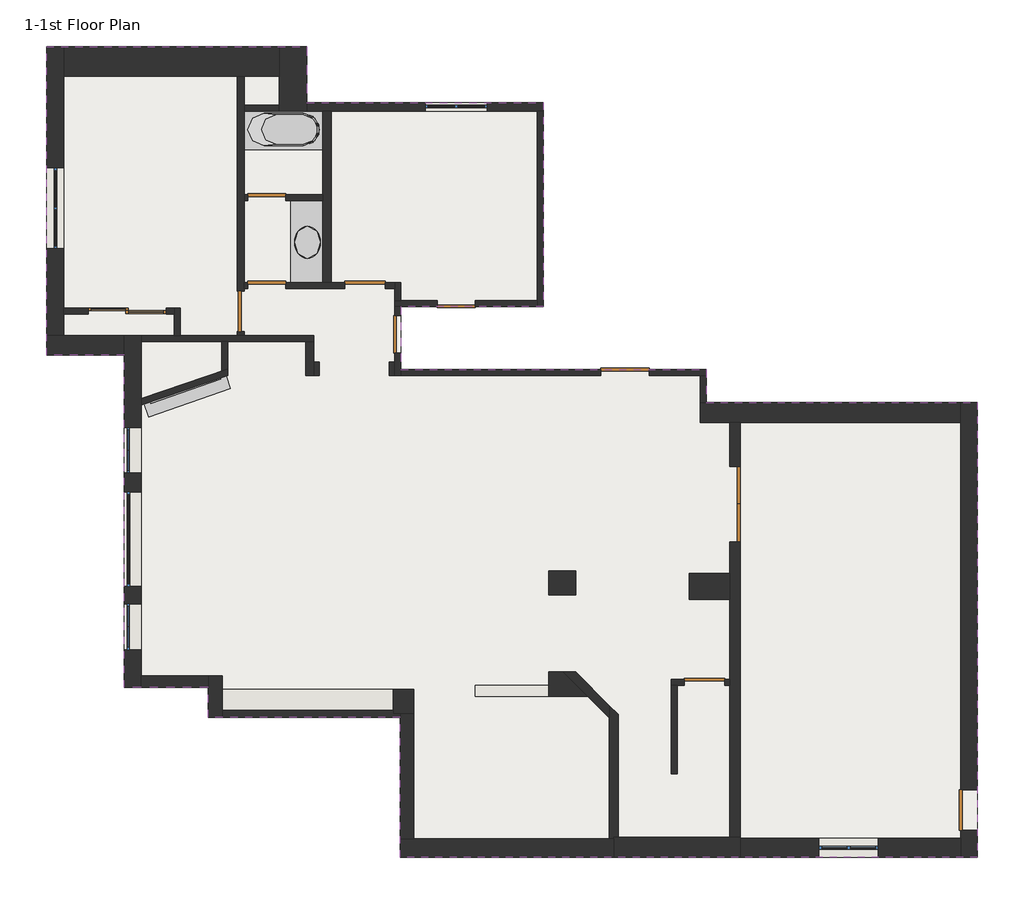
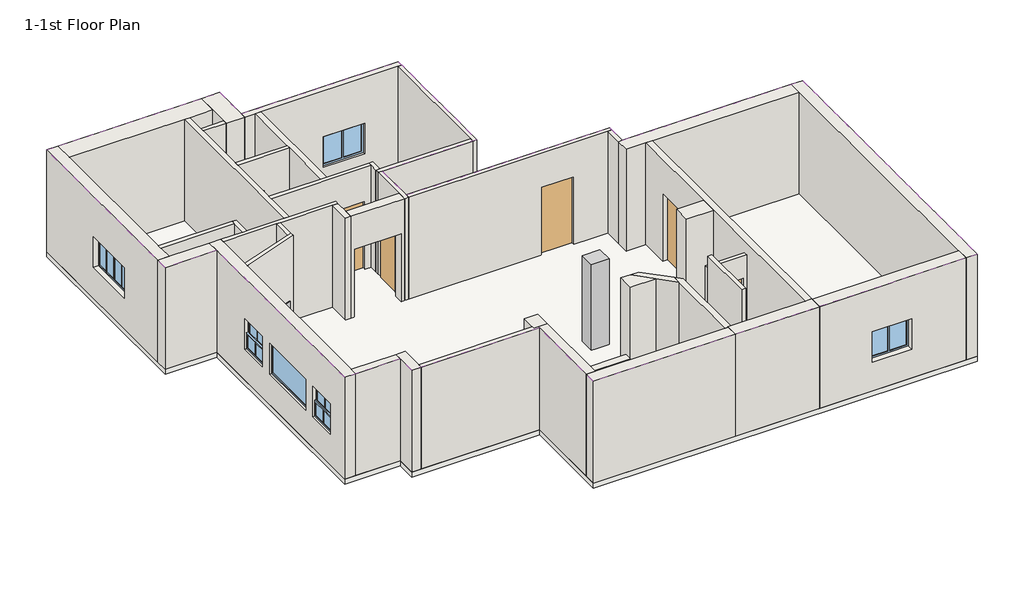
# One storey, incomplete: 43 walls, 11 doors, 6 windows, 1 column, 1 covering, 1 flow terminal, 1 furniture element, 1 proxy, 1 slab.
"""IFC4 building model written with IfcOpenShell, lengths in millimetres."""

from ifc_helpers import new_model, si_unit, frame, origin, origin_with_axes, place, context, project, spatial, polyline, outline, extrude, faceted_brep, transform, mapped, element, save
from components import generic_models_5_generic_models_5_6d1e31e7, columns_1_columns_1_5ad2784a, door_64bc458f, door_8a6e924b, door_ae451de5, door_2ad2c74c, door_949120a3, door_eaf6c470, door_1eac47e7, door_902f0b21, door_1fb80474, plumbing_fixtures_8_plumbing_fixtures_8_13d122d2, casework_10_casework_10_244081dc, window_c256d3ea, window_8184cf6b, window_6ee6a00c, window_1a2cd0af, window_898dd9ae, window_491ab510

model = new_model("IFC4")

# Units and contexts
model_context = context("Model", 3, world=origin())
ifc_project = project(units=[si_unit("LENGTHUNIT", "METRE", prefix="MILLI")], contexts=[model_context])

# Site, building, storey
site = spatial("IfcSite", under=ifc_project)
building = spatial("IfcBuilding", under=site)
storey = spatial("IfcBuildingStorey", under=building, Name="1-1st Floor Plan", Elevation=0.0)

# Proxy
placement = place(None, origin())
generic_models_5_generic_models_5_shape = generic_models_5_generic_models_5_6d1e31e7(model_context)
element("IfcBuildingElementProxy", 1, Name="Generic Models 5 : Generic Models 5", ObjectType="Generic Models 5 : Generic Models 5", at=placement, inside=storey, context=model_context, shape_type="MappedRepresentation", body=[
    mapped(generic_models_5_generic_models_5_shape, transform((0.0, 0.0, 0.0), x_axis=(1.0, 0.0, 0.0), y_axis=(0.0, 1.0, 0.0), z_axis=(0.0, 0.0, 1.0))),
])

# Column
columns_1_columns_1_shape = columns_1_columns_1_5ad2784a(model_context)
element("IfcColumn", 2, ObjectType="Columns 1 : Columns 1", at=placement, inside=storey, context=model_context, shape_type="MappedRepresentation", body=[
    mapped(columns_1_columns_1_shape, transform((0.0, 0.0, 0.0), x_axis=(1.0, 0.0, 0.0), y_axis=(0.0, 1.0, 0.0), z_axis=(0.0, 0.0, 1.0))),
])

# Covering
element("IfcCovering", 3, ObjectType="Ceiling_5.9\"", at=placement, inside=storey, context=model_context, shape_type="SweptSolid", body=[
    extrude(outline(polyline([(-6661.15, 9461.5), (-6661.15, 15278.1), (-1758.95, 15278.1), (-1758.95, 14224.0), (2692.4, 14224.0), (2692.4, 10375.9), (12.7, 10375.9), (12.7, 9194.8), (5765.8, 9194.8), (5765.8, 8572.5), (10871.2, 8572.5), (10871.2, 0.0), (0.0176056, 0.0), (0.0176056, 2641.6), (-3619.5, 2641.6), (-3619.5, 3200.4), (-5194.3, 3200.4), (-5194.3, 9461.5), (-6661.15, 9461.5)])), frame((0.0, 0.0, 3048.0), z_axis=(0.0, 0.0, 1.0), x_axis=(1.0, 0.0, 0.0)), (0.0, 0.0, 1.0), 150.0),
])

# Doors
door_shape = door_64bc458f(model_context)
element("IfcDoor", 4, ObjectType="Door_1 : 2'-4\" X 6'-8\"", at=placement, inside=storey, context=model_context, shape_type="MappedRepresentation", body=[
    mapped(door_shape, transform((-44.45, 9855.2, 0.0), x_axis=(0.0, -1.0, 0.0), y_axis=(1.0, 0.0, 0.0), z_axis=(0.0, 0.0, 1.0))),
])
element("IfcDoor", 5, ObjectType="Door_1 : 2'-4\" X 6'-8\"", at=placement, inside=storey, context=model_context, shape_type="MappedRepresentation", body=[
    mapped(door_shape, transform((-2514.6, 10775.95, 0.0), x_axis=(-1.0, 0.0, 0.0), y_axis=(0.0, -1.0, 0.0), z_axis=(0.0, 0.0, 1.0))),
])
element("IfcDoor", 6, ObjectType="Door_1 : 2'-4\" X 6'-8\"", at=placement, inside=storey, context=model_context, shape_type="MappedRepresentation", body=[
    mapped(door_shape, transform((-2514.6, 12426.95, 0.0), x_axis=(-1.0, 0.0, 0.0), y_axis=(0.0, -1.0, 0.0), z_axis=(0.0, 0.0, 1.0))),
])
door_2_shape = door_8a6e924b(model_context)
element("IfcDoor", 7, ObjectType="Door_1 : 2'-4\" X 6'-8\"", at=placement, inside=storey, context=model_context, shape_type="MappedRepresentation", body=[
    mapped(door_2_shape, transform((1054.1, 10433.05, 0.0), x_axis=(-1.0, 0.0, 0.0), y_axis=(0.0, -1.0, 0.0), z_axis=(0.0, 0.0, 1.0))),
])
door_3_shape = door_ae451de5(model_context)
element("IfcDoor", 8, ObjectType="Door_1 : 2'-6\" X 6'-8\"", at=placement, inside=storey, context=model_context, shape_type="MappedRepresentation", body=[
    mapped(door_3_shape, transform((5727.7, 3295.65, 0.0), x_axis=(1.0, 0.0, 0.0), y_axis=(0.0, 1.0, 0.0), z_axis=(0.0, 0.0, 1.0))),
])
door_4_shape = door_2ad2c74c(model_context)
element("IfcDoor", 9, ObjectType="Door_1 : 2'-6\" X 6'-8\"", at=placement, inside=storey, context=model_context, shape_type="MappedRepresentation", body=[
    mapped(door_4_shape, transform((-660.4, 10775.95, 0.0), x_axis=(-1.0, 0.0, 0.0), y_axis=(0.0, -1.0, 0.0), z_axis=(0.0, 0.0, 1.0))),
])
door_5_shape = door_949120a3(model_context)
element("IfcDoor", 10, ObjectType="Door_1 : 2'-6\" X 6'-8\"", at=placement, inside=storey, context=model_context, shape_type="MappedRepresentation", body=[
    mapped(door_5_shape, transform((10712.45, 889.0, 0.0), x_axis=(0.0, -1.0, 0.0), y_axis=(1.0, 0.0, 0.0), z_axis=(0.0, 0.0, 1.0))),
])
door_6_shape = door_eaf6c470(model_context)
element("IfcDoor", 11, ObjectType="Door_1 : 3'-0\" X 6'-8\"", at=placement, inside=storey, context=model_context, shape_type="MappedRepresentation", body=[
    mapped(door_6_shape, transform((4229.1, 9137.65, 0.0), x_axis=(1.0, 0.0, 0.0), y_axis=(0.0, 1.0, 0.0), z_axis=(0.0, 0.0, 1.0))),
])
door_7_shape = door_1eac47e7(model_context)
element("IfcDoor", 12, ObjectType="Door_2 : 4'-8\" X 6'-8\"", at=placement, inside=storey, context=model_context, shape_type="MappedRepresentation", body=[
    mapped(door_7_shape, transform((6305.55, 6654.8, 0.0), x_axis=(0.0, -1.0, 0.0), y_axis=(1.0, 0.0, 0.0), z_axis=(0.0, 0.0, 1.0))),
])
door_8_shape = door_902f0b21(model_context)
element("IfcDoor", 13, ObjectType="Door_3 : 4'-10\" X 6'-8\"", at=placement, inside=storey, context=model_context, shape_type="MappedRepresentation", body=[
    mapped(door_8_shape, transform((-5143.5, 10166.35, 0.0), x_axis=(1.0, 0.0, 0.0), y_axis=(0.0, 1.0, 0.0), z_axis=(0.0, 0.0, 1.0))),
])
door_9_shape = door_1fb80474(model_context)
element("IfcDoor", 14, ObjectType="Door_4 : 2'-6\" X 6'-8\"", at=placement, inside=storey, context=model_context, shape_type="MappedRepresentation", body=[
    mapped(door_9_shape, transform((-3006.725, 10287.0, 0.0), x_axis=(0.0, -1.0, 0.0), y_axis=(1.0, 0.0, 0.0), z_axis=(0.0, 0.0, 1.0))),
])

# Flow terminal
plumbing_fixtures_8_plumbing_fixtures_8_shape = plumbing_fixtures_8_plumbing_fixtures_8_13d122d2(model_context)
element("IfcFlowTerminal", 15, ObjectType="Plumbing Fixtures 8 : Plumbing Fixtures 8", at=placement, inside=storey, context=model_context, shape_type="MappedRepresentation", body=[
    mapped(plumbing_fixtures_8_plumbing_fixtures_8_shape, transform((0.0, 0.0, 0.0), x_axis=(1.0, 0.0, 0.0), y_axis=(0.0, 1.0, 0.0), z_axis=(0.0, 0.0, 1.0))),
])

# Furniture
casework_10_casework_10_shape = casework_10_casework_10_244081dc(model_context)
element("IfcFurniture", 16, ObjectType="Casework 10 : Casework 10", at=placement, inside=storey, context=model_context, shape_type="MappedRepresentation", body=[
    mapped(casework_10_casework_10_shape, transform((0.0, 0.0, 0.0), x_axis=(1.0, 0.0, 0.0), y_axis=(0.0, 1.0, 0.0), z_axis=(0.0, 0.0, 1.0))),
])

# Slab
element("IfcSlab", 17, ObjectType="Floor:Floor_5.9\"", at=placement, inside=storey, context=model_context, shape_type="SweptSolid", body=[
    extrude(outline(polyline([(-6661.15, 9461.5), (-6661.15, 15278.1), (-1758.95, 15278.1), (-1758.95, 14224.0), (2692.4, 14224.0), (2692.4, 10375.9), (12.7, 10375.9), (12.7, 9194.8), (5765.8, 9194.8), (5765.8, 8572.5), (10871.2, 8572.5), (10871.2, 0.0), (0.0176056, 0.0), (0.0176056, 2641.6), (-3619.5, 2641.6), (-3619.5, 3200.4), (-5194.3, 3200.4), (-5194.3, 9461.5), (-6661.15, 9461.5)])), frame((0.0, 0.0, -150.0), z_axis=(0.0, 0.0, 1.0), x_axis=(1.0, 0.0, 0.0)), (0.0, 0.0, 1.0), 150.0),
])

# Walls
element("IfcWall", 18, ObjectType="Wall_1' 1 3/4\"", at=placement, inside=storey, context=model_context, shape_type="Brep", body=[
    faceted_brep([(4019.5496704, 349.25, 0.0), (3936.9996704, 349.25, 0.0), (254.0176056, 349.25, 0.0), (0.0176056, 349.25, 0.0), (0.0176056, 349.25, 3048.0), (254.0176056, 349.25, 3048.0), (3936.9996704, 349.25, 3048.0), (4019.5496704, 349.25, 3048.0), (4019.5496704, 0.0, 0.0), (4019.5496704, 0.0, 3048.0), (0.0176056, 0.0, 3048.0), (0.0176056, 0.0, 0.0)], [[[0, 1, 2, 3, 4, 5, 6, 7]], [[8, 9, 10, 11]], [[3, 2, 1, 0, 8, 11]], [[7, 6, 5, 4, 10, 9]], [[0, 7, 9, 8]], [[4, 3, 11, 10]]]),
])
element("IfcWall", 19, ObjectType="Wall_1' 10\"", at=placement, inside=storey, context=model_context, shape_type="Brep", body=[
    faceted_brep([(-2279.65, 15278.1, 0.0), (-6337.3, 15278.1, 0.0), (-6337.3, 15278.1, 3048.0), (-2279.65, 15278.1, 3048.0), (-2279.65, 14719.3, 0.0), (-2279.65, 14719.3, 3048.0), (-2933.7, 14719.3, 3048.0), (-3073.4, 14719.3, 3048.0), (-6337.3, 14719.3, 3048.0), (-6337.3, 14719.3, 0.0), (-3073.4, 14719.3, 0.0), (-2933.7, 14719.3, 0.0)], [[[0, 1, 2, 3]], [[4, 5, 6, 7, 8, 9, 10, 11]], [[1, 0, 4, 11, 10, 9]], [[3, 2, 8, 7, 6, 5]], [[2, 1, 9, 8]], [[0, 3, 5, 4]]]),
])
element("IfcWall", 20, ObjectType="Wall_1' 2 1/2\"", at=placement, inside=storey, context=model_context, shape_type="Brep", body=[
    faceted_brep([(-5194.3, 9829.8, 0.0), (-6337.3, 9829.8, 0.0), (-6661.15, 9829.8, 0.0), (-6661.15, 9829.8, 3048.0), (-6337.3, 9829.8, 3048.0), (-5194.3, 9829.8, 3048.0), (-5194.3, 9461.5, 0.0), (-5194.3, 9461.5, 3048.0), (-6661.15, 9461.5, 3048.0), (-6661.15, 9461.5, 0.0)], [[[0, 1, 2, 3, 4, 5]], [[6, 7, 8, 9]], [[2, 1, 0, 6, 9]], [[5, 4, 3, 8, 7]], [[0, 5, 7, 6]], [[3, 2, 9, 8]]]),
])
element("IfcWall", 21, ObjectType="Wall_1' 3 1/2\"", at=placement, inside=storey, context=model_context, shape_type="SweptSolid", body=[
    extrude(outline(polyline([(-3352.8, 3162.3), (-127.0, 3162.3), (-127.0, 2768.6), (-3352.8, 2768.6), (-3352.8, 3162.3)])), origin_with_axes(), (0.0, 0.0, 1.0), 304.8),
])
element("IfcWall", 22, ObjectType="Wall_1' 3/4\"", at=placement, inside=storey, context=model_context, shape_type="Brep", body=[
    faceted_brep([(-6337.3, 9829.8, 0.0), (-6337.3, 10236.2, 0.0), (-6337.3, 10350.5, 0.0), (-6337.3, 14719.3, 0.0), (-6337.3, 15278.1, 0.0), (-6337.3, 15278.1, 3048.0), (-6337.3, 14719.3, 3048.0), (-6337.3, 10350.5, 3048.0), (-6337.3, 10236.2, 3048.0), (-6337.3, 9829.8, 3048.0), (-6337.3, 11468.1, 1828.8), (-6337.3, 12992.1, 1828.8), (-6337.3, 12992.1, 914.4), (-6337.3, 11468.1, 914.4), (-6661.15, 9829.8, 0.0), (-6661.15, 9829.8, 3048.0), (-6661.15, 15278.1, 3048.0), (-6661.15, 15278.1, 0.0), (-6661.15, 11468.1, 1828.8), (-6661.15, 11468.1, 914.4), (-6661.15, 12992.1, 914.4), (-6661.15, 12992.1, 1828.8)], [[[0, 1, 2, 3, 4, 5, 6, 7, 8, 9], [10, 11, 12, 13]], [[14, 15, 16, 17], [18, 19, 20, 21]], [[4, 3, 2, 1, 0, 14, 17]], [[9, 8, 7, 6, 5, 16, 15]], [[0, 9, 15, 14]], [[5, 4, 17, 16]], [[19, 18, 10, 13]], [[20, 19, 13, 12]], [[21, 20, 12, 11]], [[18, 21, 11, 10]]]),
])
element("IfcWall", 23, ObjectType="Wall_1' 8 1/2\"", at=placement, inside=storey, context=model_context, shape_type="Brep", body=[
    faceted_brep([(-2279.65, 15278.1, 0.0), (-2279.65, 14719.3, 0.0), (-2279.65, 14173.2, 0.0), (-2279.65, 14058.9, 0.0), (-2279.65, 14058.9, 3048.0), (-2279.65, 14173.2, 3048.0), (-2279.65, 14719.3, 3048.0), (-2279.65, 15278.1, 3048.0), (-1758.95, 15278.1, 0.0), (-1758.95, 15278.1, 3048.0), (-1758.95, 14224.0, 3048.0), (-1758.95, 14058.9, 3048.0), (-1758.95, 14058.9, 0.0), (-1758.95, 14224.0, 0.0)], [[[0, 1, 2, 3, 4, 5, 6, 7]], [[8, 9, 10, 11, 12, 13]], [[3, 2, 1, 0, 8, 13, 12]], [[7, 6, 5, 4, 11, 10, 9]], [[0, 7, 9, 8]], [[4, 3, 12, 11]]]),
])
element("IfcWall", 24, ObjectType="Wall_1'1/2\"", at=placement, inside=storey, context=model_context, shape_type="Brep", body=[
    faceted_brep([(10871.2, 0.0, 0.0), (10871.2, 508.0, 0.0), (10871.2, 508.0, 2032.0), (10871.2, 1270.0, 2032.0), (10871.2, 1270.0, 0.0), (10871.2, 8572.5, 0.0), (10871.2, 8572.5, 3048.0), (10871.2, 0.0, 3048.0), (10553.7, 508.0, 2032.0), (10553.7, 508.0, 0.0), (10553.7, 355.6, 0.0), (10553.7, 0.0, 0.0), (10553.7, 0.0, 3048.0), (10553.7, 355.6, 3048.0), (10553.7, 8191.5, 3048.0), (10553.7, 8572.5, 3048.0), (10553.7, 8572.5, 0.0), (10553.7, 8191.5, 0.0), (10553.7, 1270.0, 0.0), (10553.7, 1270.0, 2032.0)], [[[0, 1, 2, 3, 4, 5, 6, 7]], [[8, 9, 10, 11, 12, 13, 14, 15, 16, 17, 18, 19]], [[11, 10, 9, 1, 0]], [[18, 17, 16, 5, 4]], [[7, 6, 15, 14, 13, 12]], [[6, 5, 16, 15]], [[0, 7, 12, 11]], [[2, 1, 9, 8]], [[3, 2, 8, 19]], [[4, 3, 19, 18]]]),
])
element("IfcWall", 25, ObjectType="Wall_1'1/2\"", at=placement, inside=storey, context=model_context, shape_type="Brep", body=[
    faceted_brep([(-5194.3, 9829.8, 0.0), (-5194.3, 9461.5, 0.0), (-5194.3, 3200.4, 0.0), (-5194.3, 3200.4, 3048.0), (-5194.3, 9461.5, 3048.0), (-5194.3, 9829.8, 3048.0), (-5194.3, 3911.6, 1828.8), (-5194.3, 3911.6, 914.4), (-5194.3, 4775.2, 914.4), (-5194.3, 4775.2, 1828.8), (-5194.3, 6883.4, 1828.8), (-5194.3, 5105.4, 1828.8), (-5194.3, 5105.4, 914.4), (-5194.3, 6883.4, 914.4), (-5194.3, 8102.6, 1828.8), (-5194.3, 7239.0, 1828.8), (-5194.3, 7239.0, 914.4), (-5194.3, 8102.6, 914.4), (-4876.8, 9829.8, 0.0), (-4876.8, 9829.8, 3048.0), (-4876.8, 9715.5, 3048.0), (-4876.8, 8642.5645656, 3048.0), (-4876.8, 8521.7, 3048.0), (-4876.8, 3416.3, 3048.0), (-4876.8, 3200.4, 3048.0), (-4876.8, 3200.4, 0.0), (-4876.8, 3416.3, 0.0), (-4876.8, 8521.7, 0.0), (-4876.8, 8642.5645656, 0.0), (-4876.8, 9715.5, 0.0), (-4876.8, 3911.6, 1828.8), (-4876.8, 4775.2, 1828.8), (-4876.8, 4775.2, 914.4), (-4876.8, 3911.6, 914.4), (-4876.8, 6883.4, 1828.8), (-4876.8, 6883.4, 914.4), (-4876.8, 5105.4, 914.4), (-4876.8, 5105.4, 1828.8), (-4876.8, 8102.6, 1828.8), (-4876.8, 8102.6, 914.4), (-4876.8, 7239.0, 914.4), (-4876.8, 7239.0, 1828.8)], [[[0, 1, 2, 3, 4, 5], [6, 7, 8, 9], [10, 11, 12, 13], [14, 15, 16, 17]], [[18, 19, 20, 21, 22, 23, 24, 25, 26, 27, 28, 29], [30, 31, 32, 33], [34, 35, 36, 37], [38, 39, 40, 41]], [[2, 1, 0, 18, 29, 28, 27, 26, 25]], [[5, 4, 3, 24, 23, 22, 21, 20, 19]], [[3, 2, 25, 24]], [[0, 5, 19, 18]], [[7, 6, 30, 33]], [[8, 7, 33, 32]], [[9, 8, 32, 31]], [[6, 9, 31, 30]], [[35, 34, 10, 13]], [[36, 35, 13, 12]], [[37, 36, 12, 11]], [[34, 37, 11, 10]], [[39, 38, 14, 17]], [[40, 39, 17, 16]], [[41, 40, 16, 15]], [[38, 41, 15, 14]]]),
])
element("IfcWall", 26, ObjectType="Wall_1'2\"", at=placement, inside=storey, context=model_context, shape_type="SweptSolid", body=[
    extrude(outline(polyline([(0.0, 10553.7), (3048.0, 10553.7), (3048.0, 6400.8), (0.0, 6400.8), (0.0, 10553.7)]), holes=[polyline([(1778.0, 7886.7), (1778.0, 9004.3), (863.6, 9004.3), (863.6, 7886.7), (1778.0, 7886.7)])]), frame((0.0, 0.0, 0.0), z_axis=(0.0, 1.0, 0.0), x_axis=(0.0, 0.0, 1.0)), (0.0, 0.0, 1.0), 355.6),
])
element("IfcWall", 27, ObjectType="Wall_1'3\"", at=placement, inside=storey, context=model_context, shape_type="Brep", body=[
    faceted_brep([(10553.7, 8572.5, 0.0), (5765.8, 8572.5, 0.0), (5651.5, 8572.5, 0.0), (5651.5, 8572.5, 3048.0), (5765.8, 8572.5, 3048.0), (10553.7, 8572.5, 3048.0), (10553.7, 8191.5, 0.0), (10553.7, 8191.5, 3048.0), (6400.8, 8191.5, 3048.0), (6210.3, 8191.5, 3048.0), (5651.5, 8191.5, 3048.0), (5651.5, 8191.5, 0.0), (6210.3, 8191.5, 0.0), (6400.8, 8191.5, 0.0)], [[[0, 1, 2, 3, 4, 5]], [[6, 7, 8, 9, 10, 11, 12, 13]], [[2, 1, 0, 6, 13, 12, 11]], [[5, 4, 3, 10, 9, 8, 7]], [[0, 5, 7, 6]], [[3, 2, 11, 10]]]),
])
element("IfcWall", 28, ObjectType="Wall_1'3\"", at=placement, inside=storey, context=model_context, shape_type="Brep", body=[
    faceted_brep([(6400.8, 381.0, 0.0), (6210.3, 381.0, 0.0), (4102.0996704, 381.0, 0.0), (4019.5496704, 381.0, 0.0), (4019.5496704, 381.0, 3048.0), (4102.0996704, 381.0, 3048.0), (6210.3, 381.0, 3048.0), (6400.8, 381.0, 3048.0), (6400.8, 0.0, 0.0), (6400.8, 0.0, 3048.0), (4019.5496704, 0.0, 3048.0), (4019.5496704, 0.0, 0.0), (6400.8, 355.6, 0.0), (4019.5496704, 349.25, 0.0), (4019.5496704, 349.25, 3048.0), (6400.8, 355.6, 3048.0)], [[[0, 1, 2, 3, 4, 5, 6, 7]], [[8, 9, 10, 11]], [[3, 2, 1, 0, 12, 8, 11, 13]], [[4, 3, 13, 11, 10, 14]], [[7, 6, 5, 4, 14, 10, 9, 15]], [[0, 7, 15, 9, 8, 12]]]),
])
element("IfcWall", 29, ObjectType="Wall_1'3\"", at=placement, inside=storey, context=model_context, shape_type="Brep", body=[
    faceted_brep([(-127.0, 3162.3, 0.0), (-127.0, 2768.6, 0.0), (-127.0, 2705.1, 0.0), (-127.0, 2705.1, 3048.0), (-127.0, 2768.6, 3048.0), (-127.0, 3162.3, 3048.0), (-127.0, 3162.3, 304.8), (254.0, 3162.3, 0.0), (254.0, 3162.3, 3048.0), (254.0, 2705.1, 3048.0), (254.0, 2705.1, 0.0), (0.0176056, 2705.1, 0.0), (0.0176056, 2705.1, 3048.0)], [[[0, 1, 2, 3, 4, 5, 6]], [[7, 8, 9, 10]], [[2, 1, 0, 7, 10, 11]], [[3, 2, 11, 10, 9, 12]], [[5, 4, 3, 12, 9, 8]], [[0, 6, 5, 8, 7]]]),
])
element("IfcWall", 30, ObjectType="Wall_1'6\"", at=placement, inside=storey, context=model_context, shape_type="SweptSolid", body=[
    extrude(outline(polyline([(2795.4484009, 3492.5046239), (3068.5144491, 3492.4988917), (3525.7240469, 3035.2892939), (2795.4388034, 3035.304624), (2795.4484009, 3492.5046239)])), origin_with_axes(), (0.0, 0.0, 1.0), 3048.0),
])
element("IfcWall", 31, ObjectType="Wall_1'7\"", at=placement, inside=storey, context=model_context, shape_type="SweptSolid", body=[
    extrude(outline(polyline([(6210.3, 4864.1), (5441.95, 4864.1), (5441.95, 5346.7), (6210.3, 5346.7), (6210.3, 4864.1)])), origin_with_axes(), (0.0, 0.0, 1.0), 3048.0),
])
element("IfcWall", 32, ObjectType="Wall_10\"", at=placement, inside=storey, context=model_context, shape_type="Brep", body=[
    faceted_brep([(254.0176056, 349.25, 0.0), (254.0176056, 2705.1, 0.0), (254.0176056, 2705.1, 3048.0), (254.0176056, 349.25, 3048.0), (0.0176056, 349.25, 0.0), (0.0176056, 349.25, 3048.0), (0.0176056, 2641.6, 3048.0), (0.0176056, 2705.1, 3048.0), (0.0176056, 2705.1, 0.0), (0.0176056, 2641.6, 0.0)], [[[0, 1, 2, 3]], [[4, 5, 6, 7, 8, 9]], [[1, 0, 4, 9, 8]], [[2, 1, 8, 7]], [[3, 2, 7, 6, 5]], [[0, 3, 5, 4]]]),
])
element("IfcWall", 33, ObjectType="Wall_10\"", at=placement, inside=storey, context=model_context, shape_type="SweptSolid", body=[
    extrude(outline(polyline([(2032.0, -203.2), (0.0, -203.2), (0.0, -101.6), (3048.0, -101.6), (3048.0, -1625.6), (0.0, -1625.6), (0.0, -1524.0), (2032.0, -1524.0), (2032.0, -203.2)])), frame((0.0, 9080.5, 0.0), z_axis=(0.0, 1.0, 0.0), x_axis=(0.0, 0.0, 1.0)), (0.0, 0.0, 1.0), 254.0),
])
element("IfcWall", 34, ObjectType="Wall_10.5\"", at=placement, inside=storey, context=model_context, shape_type="Brep", body=[
    faceted_brep([(-3352.8, 2641.6, 0.0), (-3352.8, 2768.6, 0.0), (-3352.8, 3162.3, 0.0), (-3352.8, 3416.3, 0.0), (-3352.8, 3416.3, 3048.0), (-3352.8, 2768.6, 3048.0), (-3352.8, 2641.6, 3048.0), (-3619.5, 2641.6, 0.0), (-3619.5, 2641.6, 3048.0), (-3619.5, 3200.4, 3048.0), (-3619.5, 3416.3, 3048.0), (-3619.5, 3416.3, 0.0), (-3619.5, 3200.4, 0.0)], [[[0, 1, 2, 3, 4, 5, 6]], [[7, 8, 9, 10, 11, 12]], [[3, 2, 1, 0, 7, 12, 11]], [[6, 5, 4, 10, 9, 8]], [[0, 6, 8, 7]], [[4, 3, 11, 10]]]),
])
element("IfcWall", 35, ObjectType="Wall_4.5\"", at=placement, inside=storey, context=model_context, shape_type="Brep", body=[
    faceted_brep([(2692.4, 10375.9, 0.0), (2692.4, 14058.9, 0.0), (2692.4, 14058.9, 3048.0), (2692.4, 10375.9, 3048.0), (2578.1, 10375.9, 0.0), (2578.1, 10375.9, 3048.0), (2578.1, 10490.2, 3048.0), (2578.1, 14058.9, 3048.0), (2578.1, 14058.9, 0.0), (2578.1, 10490.2, 0.0)], [[[0, 1, 2, 3]], [[4, 5, 6, 7, 8, 9]], [[1, 0, 4, 9, 8]], [[3, 2, 7, 6, 5]], [[2, 1, 8, 7]], [[0, 3, 5, 4]]]),
])
element("IfcWall", 36, ObjectType="Wall_4.5\"", at=placement, inside=storey, context=model_context, shape_type="Brep", body=[
    faceted_brep([(698.5, 10490.2, 2032.0), (698.5, 10490.2, 0.0), (12.7, 10490.2, 0.0), (-101.6, 10490.2, 0.0), (-101.6, 10490.2, 3048.0), (12.7, 10490.2, 3048.0), (2578.1, 10490.2, 3048.0), (2578.1, 10490.2, 0.0), (1409.7, 10490.2, 0.0), (1409.7, 10490.2, 2032.0), (-101.6, 10375.9, 0.0), (12.7, 10375.9, 0.0), (698.5, 10375.9, 0.0), (698.5, 10375.9, 2032.0), (1409.7, 10375.9, 2032.0), (1409.7, 10375.9, 0.0), (2578.1, 10375.9, 0.0), (2578.1, 10375.9, 3048.0), (12.7, 10375.9, 3048.0), (-101.6, 10375.9, 3048.0)], [[[0, 1, 2, 3, 4, 5, 6, 7, 8, 9]], [[10, 11, 12, 13, 14, 15, 16, 17, 18, 19]], [[8, 7, 16, 15]], [[3, 2, 1, 12, 11, 10]], [[6, 5, 4, 19, 18, 17]], [[4, 3, 10, 19]], [[7, 6, 17, 16]], [[13, 12, 1, 0]], [[14, 13, 0, 9]], [[15, 14, 9, 8]]]),
])
element("IfcWall", 37, ObjectType="Wall_4.5\"", at=placement, inside=storey, context=model_context, shape_type="Brep", body=[
    faceted_brep([(-101.6, 9499.6, 2032.0), (-101.6, 9499.6, 0.0), (-101.6, 9334.5, 0.0), (-101.6, 9080.5, 0.0), (-101.6, 9080.5, 3048.0), (-101.6, 9334.5, 3048.0), (-101.6, 10375.9, 3048.0), (-101.6, 10375.9, 0.0), (-101.6, 10210.8, 0.0), (-101.6, 10210.8, 2032.0), (12.7, 9080.5, 0.0), (12.7, 9194.8, 0.0), (12.7, 9499.6, 0.0), (12.7, 9499.6, 2032.0), (12.7, 10210.8, 2032.0), (12.7, 10210.8, 0.0), (12.7, 10375.9, 0.0), (12.7, 10375.9, 3048.0), (12.7, 9194.8, 3048.0), (12.7, 9080.5, 3048.0)], [[[0, 1, 2, 3, 4, 5, 6, 7, 8, 9]], [[10, 11, 12, 13, 14, 15, 16, 17, 18, 19]], [[8, 7, 16, 15]], [[3, 2, 1, 12, 11, 10]], [[6, 5, 4, 19, 18, 17]], [[7, 6, 17, 16]], [[4, 3, 10, 19]], [[13, 12, 1, 0]], [[14, 13, 0, 9]], [[15, 14, 9, 8]]]),
])
element("IfcWall", 38, ObjectType="Wall_4.5\"", at=placement, inside=storey, context=model_context, shape_type="Brep", body=[
    faceted_brep([(4686.3, 9080.5, 2032.0), (4686.3, 9080.5, 0.0), (5651.5, 9080.5, 0.0), (5765.8, 9080.5, 0.0), (5765.8, 9080.5, 3048.0), (5651.5, 9080.5, 3048.0), (12.7, 9080.5, 3048.0), (12.7, 9080.5, 0.0), (3771.9, 9080.5, 0.0), (3771.9, 9080.5, 2032.0), (5765.8, 9194.8, 0.0), (4686.3, 9194.8, 0.0), (4686.3, 9194.8, 2032.0), (3771.9, 9194.8, 2032.0), (3771.9, 9194.8, 0.0), (12.7, 9194.8, 0.0), (12.7, 9194.8, 3048.0), (5765.8, 9194.8, 3048.0)], [[[0, 1, 2, 3, 4, 5, 6, 7, 8, 9]], [[10, 11, 12, 13, 14, 15, 16, 17]], [[8, 7, 15, 14]], [[3, 2, 1, 11, 10]], [[6, 5, 4, 17, 16]], [[7, 6, 16, 15]], [[4, 3, 10, 17]], [[12, 11, 1, 0]], [[13, 12, 0, 9]], [[14, 13, 9, 8]]]),
])
element("IfcWall", 39, ObjectType="Wall_4.5\"", at=placement, inside=storey, context=model_context, shape_type="SweptSolid", body=[
    extrude(outline(polyline([(5651.5, 8572.5), (5651.5, 9080.5), (5765.8, 9080.5), (5765.8, 8572.5), (5651.5, 8572.5)])), origin_with_axes(), (0.0, 0.0, 1.0), 3048.0),
])
element("IfcWall", 40, ObjectType="Wall_4.5\"", at=placement, inside=storey, context=model_context, shape_type="Brep", body=[
    faceted_brep([(6210.3, 3352.8, 0.0), (6108.7, 3352.8, 0.0), (6108.7, 3352.8, 2032.0), (5346.7, 3352.8, 2032.0), (5346.7, 3352.8, 0.0), (5105.4, 3352.8, 0.0), (5105.4, 3352.8, 2694.6), (6210.3, 3352.8, 2694.6), (6108.7, 3238.5, 2032.0), (6108.7, 3238.5, 0.0), (6210.3, 3238.5, 0.0), (6210.3, 3238.5, 2694.6), (5105.4, 3238.5, 2694.6), (5105.4, 3238.5, 0.0), (5219.7, 3238.5, 0.0), (5346.7, 3238.5, 0.0), (5346.7, 3238.5, 2032.0)], [[[0, 1, 2, 3, 4, 5, 6, 7]], [[8, 9, 10, 11, 12, 13, 14, 15, 16]], [[10, 9, 1, 0]], [[15, 14, 13, 5, 4]], [[7, 6, 12, 11]], [[0, 7, 11, 10]], [[6, 5, 13, 12]], [[2, 1, 9, 8]], [[3, 2, 8, 16]], [[4, 3, 16, 15]]]),
])
element("IfcWall", 41, ObjectType="Wall_4.5\"", at=placement, inside=storey, context=model_context, shape_type="Brep", body=[
    faceted_brep([(5105.4, 3238.5, 0.0), (5105.4, 1574.8, 0.0), (5105.4, 1574.8, 3048.0), (5105.4, 3238.5, 3048.0), (5105.4, 3238.5, 2694.6), (5219.7, 3238.5, 0.0), (5219.7, 3238.5, 3048.0), (5219.7, 1574.8, 3048.0), (5219.7, 1574.8, 0.0)], [[[0, 1, 2, 3, 4]], [[5, 6, 7, 8]], [[1, 0, 5, 8]], [[2, 1, 8, 7]], [[3, 2, 7, 6]], [[0, 4, 3, 6, 5]]]),
])
element("IfcWall", 42, ObjectType="Wall_4.5\"", at=placement, inside=storey, context=model_context, shape_type="Brep", body=[
    faceted_brep([(-3251.2, 9201.3645656, 0.0), (-3365.5, 9162.0739406, 0.0), (-4876.8, 8642.5645656, 0.0), (-4876.8, 8642.5645656, 3048.0), (-3365.5, 9162.0739406, 3048.0), (-3251.2, 9201.3645656, 3048.0), (-4876.8, 8521.7, 0.0), (-3251.2, 9080.5, 0.0), (-3251.2, 9080.5, 3048.0), (-4876.8, 8521.7, 3048.0)], [[[0, 1, 2, 3, 4, 5]], [[6, 7, 8, 9]], [[2, 1, 0, 7, 6]], [[5, 4, 3, 9, 8]], [[3, 2, 6, 9]], [[0, 5, 8, 7]]]),
])
element("IfcWall", 43, ObjectType="Wall_4.5\"", at=placement, inside=storey, context=model_context, shape_type="SweptSolid", body=[
    extrude(outline(polyline([(-3251.2, 9715.5), (-3251.2, 9201.3645656), (-3365.5, 9162.0739406), (-3365.5, 9715.5), (-3251.2, 9715.5)])), origin_with_axes(), (0.0, 0.0, 1.0), 3048.0),
])
element("IfcWall", 44, ObjectType="Wall_4.5\"", at=placement, inside=storey, context=model_context, shape_type="Brep", body=[
    faceted_brep([(-4876.8, 9715.5, 0.0), (-3365.5, 9715.5, 0.0), (-3251.2, 9715.5, 0.0), (-1778.0, 9715.5, 0.0), (-1625.6, 9715.5, 0.0), (-1625.6, 9715.5, 3048.0), (-1778.0, 9715.5, 3048.0), (-3251.2, 9715.5, 3048.0), (-3365.5, 9715.5, 3048.0), (-4876.8, 9715.5, 3048.0), (-4876.8, 9829.8, 0.0), (-4876.8, 9829.8, 3048.0), (-4254.5, 9829.8, 3048.0), (-4140.2, 9829.8, 3048.0), (-3073.4, 9829.8, 3048.0), (-2933.7, 9829.8, 3048.0), (-1625.6, 9829.8, 3048.0), (-1625.6, 9829.8, 0.0), (-2933.7, 9829.8, 0.0), (-3073.4, 9829.8, 0.0), (-4140.2, 9829.8, 0.0), (-4254.5, 9829.8, 0.0)], [[[0, 1, 2, 3, 4, 5, 6, 7, 8, 9]], [[10, 11, 12, 13, 14, 15, 16, 17, 18, 19, 20, 21]], [[4, 3, 2, 1, 0, 10, 21, 20, 19, 18, 17]], [[9, 8, 7, 6, 5, 16, 15, 14, 13, 12, 11]], [[0, 9, 11, 10]], [[5, 4, 17, 16]]]),
])
element("IfcWall", 45, ObjectType="Wall_4.5\"", at=placement, inside=storey, context=model_context, shape_type="Brep", body=[
    faceted_brep([(12.7, 10490.2, 0.0), (12.7, 10833.1, 0.0), (12.7, 10833.1, 3048.0), (12.7, 10490.2, 3048.0), (-101.6, 10490.2, 0.0), (-101.6, 10490.2, 3048.0), (-101.6, 10718.8, 3048.0), (-101.6, 10833.1, 3048.0), (-101.6, 10833.1, 0.0), (-101.6, 10718.8, 0.0)], [[[0, 1, 2, 3]], [[4, 5, 6, 7, 8, 9]], [[1, 0, 4, 9, 8]], [[3, 2, 7, 6, 5]], [[0, 3, 5, 4]], [[2, 1, 8, 7]]]),
])
element("IfcWall", 46, ObjectType="Wall_4.5\"", at=placement, inside=storey, context=model_context, shape_type="Brep", body=[
    faceted_brep([(-2870.2, 10833.1, 2032.0), (-2870.2, 10833.1, 0.0), (-2933.7, 10833.1, 0.0), (-2933.7, 10833.1, 3048.0), (-1460.5, 10833.1, 3048.0), (-1295.4, 10833.1, 3048.0), (-101.6, 10833.1, 3048.0), (-101.6, 10833.1, 0.0), (-279.4, 10833.1, 0.0), (-279.4, 10833.1, 2032.0), (-1041.4, 10833.1, 2032.0), (-1041.4, 10833.1, 0.0), (-1295.4, 10833.1, 0.0), (-1460.5, 10833.1, 0.0), (-2159.0, 10833.1, 0.0), (-2159.0, 10833.1, 2032.0), (-2933.7, 10718.8, 0.0), (-2870.2, 10718.8, 0.0), (-2870.2, 10718.8, 2032.0), (-2159.0, 10718.8, 2032.0), (-2159.0, 10718.8, 0.0), (-1041.4, 10718.8, 0.0), (-1041.4, 10718.8, 2032.0), (-279.4, 10718.8, 2032.0), (-279.4, 10718.8, 0.0), (-101.6, 10718.8, 0.0), (-101.6, 10718.8, 3048.0), (-2933.7, 10718.8, 3048.0)], [[[0, 1, 2, 3, 4, 5, 6, 7, 8, 9, 10, 11, 12, 13, 14, 15]], [[16, 17, 18, 19, 20, 21, 22, 23, 24, 25, 26, 27]], [[8, 7, 25, 24]], [[2, 1, 17, 16]], [[14, 13, 12, 11, 21, 20]], [[6, 5, 4, 3, 27, 26]], [[7, 6, 26, 25]], [[3, 2, 16, 27]], [[22, 21, 11, 10]], [[23, 22, 10, 9]], [[24, 23, 9, 8]], [[18, 17, 1, 0]], [[19, 18, 0, 15]], [[20, 19, 15, 14]]]),
])
element("IfcWall", 47, ObjectType="Wall_4.5\"", at=placement, inside=storey, context=model_context, shape_type="SweptSolid", body=[
    extrude(outline(polyline([(0.0, -2933.7), (0.0, -2870.2), (2032.0, -2870.2), (2032.0, -2159.0), (0.0, -2159.0), (0.0, -1460.5), (3048.0, -1460.5), (3048.0, -2933.7), (0.0, -2933.7)])), frame((0.0, 12369.8, 0.0), z_axis=(0.0, 1.0, 0.0), x_axis=(0.0, 0.0, 1.0)), (0.0, 0.0, 1.0), 114.3),
])
element("IfcWall", 48, ObjectType="Wall_4.5\"", at=placement, inside=storey, context=model_context, shape_type="SweptSolid", body=[
    extrude(outline(polyline([(-2933.7, 14173.2), (-2279.65, 14173.2), (-2279.65, 14058.9), (-2933.7, 14058.9), (-2933.7, 14173.2)])), origin_with_axes(), (0.0, 0.0, 1.0), 3048.0),
])
element("IfcWall", 49, ObjectType="Wall_4.5\"", at=placement, inside=storey, context=model_context, shape_type="Brep", body=[
    faceted_brep([(-4140.2, 9829.8, 0.0), (-4140.2, 10350.5, 0.0), (-4140.2, 10350.5, 3048.0), (-4140.2, 9829.8, 3048.0), (-4254.5, 9829.8, 0.0), (-4254.5, 9829.8, 3048.0), (-4254.5, 10236.2, 3048.0), (-4254.5, 10350.5, 3048.0), (-4254.5, 10350.5, 0.0), (-4254.5, 10236.2, 0.0)], [[[0, 1, 2, 3]], [[4, 5, 6, 7, 8, 9]], [[1, 0, 4, 9, 8]], [[3, 2, 7, 6, 5]], [[0, 3, 5, 4]], [[2, 1, 8, 7]]]),
])
element("IfcWall", 50, ObjectType="Wall_4.5\"", at=placement, inside=storey, context=model_context, shape_type="SweptSolid", body=[
    extrude(outline(polyline([(2032.0, -4406.9), (0.0, -4406.9), (0.0, -4254.5), (3048.0, -4254.5), (3048.0, -6337.3), (0.0, -6337.3), (0.0, -5880.1), (2032.0, -5880.1), (2032.0, -4406.9)])), frame((0.0, 10236.2, 0.0), z_axis=(0.0, 1.0, 0.0), x_axis=(0.0, 0.0, 1.0)), (0.0, 0.0, 1.0), 114.3),
])
element("IfcWall", 51, ObjectType="Wall_5\"", at=placement, inside=storey, context=model_context, shape_type="SweptSolid", body=[
    extrude(outline(polyline([(-3352.8, 2768.6), (-127.0, 2768.6), (-127.0, 2705.1), (0.0176056, 2705.1), (0.0176056, 2641.6), (-3352.8, 2641.6), (-3352.8, 2768.6)])), origin_with_axes(), (0.0, 0.0, 1.0), 3048.0),
])
element("IfcWall", 52, ObjectType="Wall_5.5\"", at=placement, inside=storey, context=model_context, shape_type="Brep", body=[
    faceted_brep([(-3073.4, 9829.8, 3048.0), (-3073.4, 14719.3, 3048.0), (-3073.4, 14719.3, 0.0), (-3073.4, 10668.0, 0.0), (-3073.4, 10668.0, 2057.4), (-3073.4, 9906.0, 2057.4), (-3073.4, 9906.0, 0.0), (-3073.4, 9829.8, 0.0), (-2933.7, 14719.3, 3048.0), (-2933.7, 14173.2, 3048.0), (-2933.7, 14058.9, 3048.0), (-2933.7, 12484.1, 3048.0), (-2933.7, 12369.8, 3048.0), (-2933.7, 10833.1, 3048.0), (-2933.7, 10718.8, 3048.0), (-2933.7, 9829.8, 3048.0), (-2933.7, 9829.8, 0.0), (-2933.7, 9906.0, 0.0), (-2933.7, 9906.0, 2057.4), (-2933.7, 10668.0, 2057.4), (-2933.7, 10668.0, 0.0), (-2933.7, 10718.8, 0.0), (-2933.7, 10833.1, 0.0), (-2933.7, 12369.8, 0.0), (-2933.7, 12484.1, 0.0), (-2933.7, 14058.9, 0.0), (-2933.7, 14173.2, 0.0), (-2933.7, 14719.3, 0.0)], [[[0, 1, 2, 3, 4, 5, 6, 7]], [[8, 9, 10, 11, 12, 13, 14, 15, 16, 17, 18, 19, 20, 21, 22, 23, 24, 25, 26, 27]], [[16, 7, 6, 17]], [[2, 27, 26, 25, 24, 23, 22, 21, 20, 3]], [[1, 0, 15, 14, 13, 12, 11, 10, 9, 8]], [[0, 7, 16, 15]], [[2, 1, 8, 27]], [[5, 18, 17, 6]], [[18, 5, 4, 19]], [[19, 4, 3, 20]]]),
])
element("IfcWall", 53, ObjectType="Wall_6\"", at=placement, inside=storey, context=model_context, shape_type="Brep", body=[
    faceted_brep([(-1778.0, 9715.5, 0.0), (-1778.0, 9080.5, 0.0), (-1778.0, 9080.5, 3048.0), (-1778.0, 9715.5, 3048.0), (-1625.6, 9715.5, 0.0), (-1625.6, 9715.5, 3048.0), (-1625.6, 9334.5, 3048.0), (-1625.6, 9080.5, 3048.0), (-1625.6, 9080.5, 0.0), (-1625.6, 9334.5, 0.0)], [[[0, 1, 2, 3]], [[4, 5, 6, 7, 8, 9]], [[1, 0, 4, 9, 8]], [[3, 2, 7, 6, 5]], [[0, 3, 5, 4]], [[2, 1, 8, 7]]]),
])
element("IfcWall", 54, ObjectType="Wall_6.5\"", at=placement, inside=storey, context=model_context, shape_type="Brep", body=[
    faceted_brep([(4102.0996704, 381.0, 0.0), (4102.0996704, 2692.4003296, 0.0), (4102.0996704, 2692.4003296, 3048.0), (4102.0996704, 381.0, 3048.0), (3936.9996704, 349.25, 0.0), (3936.9996704, 349.25, 3048.0), (3936.9996704, 2624.0136704, 3048.0), (3936.9996704, 2857.5003296, 3048.0), (3936.9996704, 2857.5003296, 0.0), (3936.9996704, 2624.0136704, 0.0), (4019.5496704, 381.0, 0.0), (4019.5496704, 349.25, 0.0), (4019.5496704, 349.25, 3048.0), (4019.5496704, 381.0, 3048.0)], [[[0, 1, 2, 3]], [[4, 5, 6, 7, 8, 9]], [[1, 0, 10, 11, 4, 9, 8]], [[3, 2, 7, 6, 5, 12, 13]], [[0, 3, 13, 10]], [[13, 12, 11, 10]], [[12, 5, 4, 11]], [[2, 1, 8, 7]]]),
])
element("IfcWall", 55, ObjectType="Wall_6.5\"", at=placement, inside=storey, context=model_context, shape_type="Brep", body=[
    faceted_brep([(3936.9996704, 2857.5003296, 0.0), (3302.0060097, 3492.4939903, 0.0), (3302.0060097, 3492.4939903, 3048.0), (3936.9996704, 2857.5003296, 3048.0), (3936.9996704, 2624.0136704, 0.0), (3936.9996704, 2624.0136704, 3048.0), (3525.7240469, 3035.2892939, 3048.0), (3068.5144491, 3492.4988917, 3048.0), (3068.5144491, 3492.4988917, 0.0), (3525.7240469, 3035.2892939, 0.0)], [[[0, 1, 2, 3]], [[4, 5, 6, 7, 8, 9]], [[1, 0, 4, 9, 8]], [[3, 2, 7, 6, 5]], [[0, 3, 5, 4]], [[2, 1, 8, 7]]]),
])
element("IfcWall", 56, ObjectType="Wall_6.5\"", at=placement, inside=storey, context=model_context, shape_type="Brep", body=[
    faceted_brep([(2692.4, 14224.0, 0.0), (-1758.95, 14224.0, 0.0), (-1758.95, 14224.0, 3048.0), (2692.4, 14224.0, 3048.0), (1638.3, 14224.0, 1676.4), (469.9, 14224.0, 1676.4), (469.9, 14224.0, 762.0), (1638.3, 14224.0, 762.0), (2692.4, 14058.9, 0.0), (2692.4, 14058.9, 3048.0), (2578.1, 14058.9, 3048.0), (-1295.4, 14058.9, 3048.0), (-1460.5, 14058.9, 3048.0), (-1758.95, 14058.9, 3048.0), (-1758.95, 14058.9, 0.0), (-1460.5, 14058.9, 0.0), (-1295.4, 14058.9, 0.0), (2578.1, 14058.9, 0.0), (1638.3, 14058.9, 1676.4), (1638.3, 14058.9, 762.0), (469.9, 14058.9, 762.0), (469.9, 14058.9, 1676.4)], [[[0, 1, 2, 3], [4, 5, 6, 7]], [[8, 9, 10, 11, 12, 13, 14, 15, 16, 17], [18, 19, 20, 21]], [[1, 0, 8, 17, 16, 15, 14]], [[3, 2, 13, 12, 11, 10, 9]], [[0, 3, 9, 8]], [[19, 18, 4, 7]], [[20, 19, 7, 6]], [[21, 20, 6, 5]], [[18, 21, 5, 4]], [[2, 1, 14, 13]]]),
])
element("IfcWall", 57, ObjectType="Wall_6.5\"", at=placement, inside=storey, context=model_context, shape_type="Brep", body=[
    faceted_brep([(-1295.4, 10833.1, 0.0), (-1295.4, 14058.9, 0.0), (-1295.4, 14058.9, 3048.0), (-1295.4, 10833.1, 3048.0), (-1460.5, 10833.1, 0.0), (-1460.5, 10833.1, 3048.0), (-1460.5, 12369.8, 3048.0), (-1460.5, 12484.1, 3048.0), (-1460.5, 14058.9, 3048.0), (-1460.5, 14058.9, 0.0), (-1460.5, 12484.1, 0.0), (-1460.5, 12369.8, 0.0)], [[[0, 1, 2, 3]], [[4, 5, 6, 7, 8, 9, 10, 11]], [[1, 0, 4, 11, 10, 9]], [[3, 2, 8, 7, 6, 5]], [[2, 1, 9, 8]], [[0, 3, 5, 4]]]),
])
element("IfcWall", 58, ObjectType="Wall_7.5\"", at=placement, inside=storey, context=model_context, shape_type="Brep", body=[
    faceted_brep([(6400.8, 8191.5, 3048.0), (6400.8, 381.0, 3048.0), (6400.8, 381.0, 0.0), (6400.8, 5943.6, 0.0), (6400.8, 5943.6, 2032.0), (6400.8, 7366.0, 2032.0), (6400.8, 7366.0, 0.0), (6400.8, 8191.5, 0.0), (6210.3, 381.0, 3048.0), (6210.3, 4864.1, 3048.0), (6210.3, 5346.7, 3048.0), (6210.3, 8191.5, 3048.0), (6210.3, 8191.5, 0.0), (6210.3, 7366.0, 0.0), (6210.3, 7366.0, 2032.0), (6210.3, 5943.6, 2032.0), (6210.3, 5943.6, 0.0), (6210.3, 5346.7, 0.0), (6210.3, 4864.1, 0.0), (6210.3, 3352.8, 0.0), (6210.3, 3238.5, 0.0), (6210.3, 381.0, 0.0)], [[[0, 1, 2, 3, 4, 5, 6, 7]], [[8, 9, 10, 11, 12, 13, 14, 15, 16, 17, 18, 19, 20, 21]], [[12, 7, 6, 13]], [[2, 21, 20, 19, 18, 17, 16, 3]], [[1, 0, 11, 10, 9, 8]], [[0, 7, 12, 11]], [[15, 4, 3, 16]], [[4, 15, 14, 5]], [[5, 14, 13, 6]], [[2, 1, 8, 21]]]),
])
element("IfcWall", 59, ObjectType="Wall_8\"", at=placement, inside=storey, context=model_context, shape_type="SweptSolid", body=[
    extrude(outline(polyline([(1417.513341, 3238.5176057), (2795.4436022, 3238.5176057), (2795.4436022, 3035.3176057), (1417.513341, 3035.3176057), (1417.513341, 3238.5176057)])), origin_with_axes(), (0.0, 0.0, 1.0), 914.4),
])
element("IfcWall", 60, ObjectType="Wall_8.5\"", at=placement, inside=storey, context=model_context, shape_type="SweptSolid", body=[
    extrude(outline(polyline([(-4876.8, 3416.3), (-3619.5, 3416.3), (-3619.5, 3200.4), (-4876.8, 3200.4), (-4876.8, 3416.3)])), origin_with_axes(), (0.0, 0.0, 1.0), 3048.0),
])

# Windows
window_shape = window_c256d3ea(model_context)
element("IfcWindow", 61, ObjectType="Window_1 : 5'-10\" x 3'-0\"", at=placement, inside=storey, context=model_context, shape_type="MappedRepresentation", body=[
    mapped(window_shape, transform((-5035.55, 5981.7, 76.2), x_axis=(0.0, 1.0, 0.0), y_axis=(-1.0, 0.0, 0.0), z_axis=(0.0, 0.0, 1.0))),
])
window_2_shape = window_8184cf6b(model_context)
element("IfcWindow", 62, ObjectType="Window_3 : 5'-0\" x 3'-0\"", at=placement, inside=storey, context=model_context, shape_type="MappedRepresentation", body=[
    mapped(window_2_shape, transform((-6499.225, 12242.8, 76.2), x_axis=(0.0, -1.0, 0.0), y_axis=(1.0, 0.0, 0.0), z_axis=(0.0, 0.0, 1.0))),
])
window_3_shape = window_6ee6a00c(model_context)
element("IfcWindow", 63, ObjectType="Window_4 : 2'-10\" x 3'-0\"", at=placement, inside=storey, context=model_context, shape_type="MappedRepresentation", body=[
    mapped(window_3_shape, transform((-5035.55, 7670.8, 76.2), x_axis=(0.0, 1.0, 0.0), y_axis=(-1.0, 0.0, 0.0), z_axis=(0.0, 0.0, 1.0))),
])
window_4_shape = window_1a2cd0af(model_context)
element("IfcWindow", 64, ObjectType="Window_4 : 2'-10\" x 3'-0\"", at=placement, inside=storey, context=model_context, shape_type="MappedRepresentation", body=[
    mapped(window_4_shape, transform((-5035.55, 4343.4, 76.2), x_axis=(0.0, -1.0, 0.0), y_axis=(1.0, 0.0, 0.0), z_axis=(0.0, 0.0, 1.0))),
])
window_5_shape = window_898dd9ae(model_context)
element("IfcWindow", 65, ObjectType="Window_5 : 3'-10\" x 3'-0\"", at=placement, inside=storey, context=model_context, shape_type="MappedRepresentation", body=[
    mapped(window_5_shape, transform((1041.4, 14141.45, -76.2), x_axis=(1.0, 0.0, 0.0), y_axis=(0.0, 1.0, 0.0), z_axis=(0.0, 0.0, 1.0))),
])
window_6_shape = window_491ab510(model_context)
element("IfcWindow", 66, ObjectType="Window_5 : 3'-8\" x 3'-0\"", at=placement, inside=storey, context=model_context, shape_type="MappedRepresentation", body=[
    mapped(window_6_shape, transform((8458.2, 177.8, 25.4), x_axis=(-1.0, 0.0, 0.0), y_axis=(0.0, -1.0, 0.0), z_axis=(0.0, 0.0, 1.0))),
])

save(model, "model.ifc")
